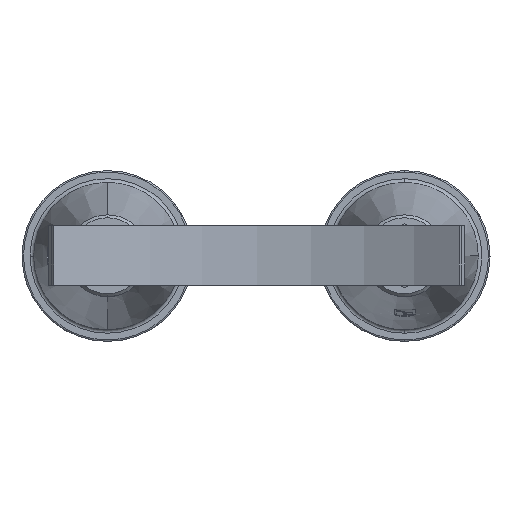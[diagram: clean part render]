
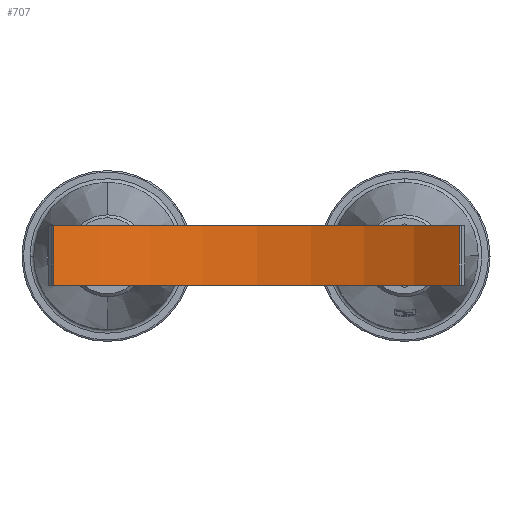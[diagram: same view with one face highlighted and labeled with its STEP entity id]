
A CAD part, top view. The second image highlights one B-rep face of the part: STEP entity #707.
In plain terms, the highlighted cylindrical face has radius 453 mm (diameter 906 mm), a partial arc.
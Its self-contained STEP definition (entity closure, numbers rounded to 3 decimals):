
#707=ADVANCED_FACE('',(#1395),#1396,.F.);
#1395=FACE_OUTER_BOUND('',#2122,.T.);
#1396=CYLINDRICAL_SURFACE('',#2123,453.0);
#2122=EDGE_LOOP('',(#3842,#3843,#3844,#3845));
#2123=AXIS2_PLACEMENT_3D('',#3846,#3847,#3848);
#3842=ORIENTED_EDGE('',*,*,#4741,.T.);
#3843=ORIENTED_EDGE('',*,*,#4731,.F.);
#3844=ORIENTED_EDGE('',*,*,#4742,.T.);
#3845=ORIENTED_EDGE('',*,*,#4738,.T.);
#3846=CARTESIAN_POINT('',(423.544,331.341,582.476));
#3847=DIRECTION('',(0.,-1.0,0.));
#3848=DIRECTION('',(1.0,0.,0.));
#4731=EDGE_CURVE('',#5745,#5740,#5747,.T.);
#4738=EDGE_CURVE('',#5757,#5755,#5758,.T.);
#4741=EDGE_CURVE('',#5755,#5740,#5761,.T.);
#4742=EDGE_CURVE('',#5745,#5757,#5762,.T.);
#5740=VERTEX_POINT('',#8166);
#5745=VERTEX_POINT('',#8173);
#5747=LINE('',#8176,#8177);
#5755=VERTEX_POINT('',#8186);
#5757=VERTEX_POINT('',#8189);
#5758=LINE('',#8190,#8191);
#5761=CIRCLE('',#8195,453.0);
#5762=CIRCLE('',#8196,453.0);
#8166=CARTESIAN_POINT('',(697.329,251.341,221.573));
#8173=CARTESIAN_POINT('',(697.329,331.341,221.573));
#8176=CARTESIAN_POINT('',(697.329,331.341,221.573));
#8177=VECTOR('',#9812,1.);
#8186=CARTESIAN_POINT('',(151.026,251.341,220.616));
#8189=CARTESIAN_POINT('',(151.026,331.341,220.616));
#8190=CARTESIAN_POINT('',(151.026,331.341,220.616));
#8191=VECTOR('',#9821,1.);
#8195=AXIS2_PLACEMENT_3D('',#9823,#9824,#9825);
#8196=AXIS2_PLACEMENT_3D('',#9826,#9827,#9828);
#9812=DIRECTION('',(0.,-1.0,0.));
#9821=DIRECTION('',(0.,-1.0,0.));
#9823=CARTESIAN_POINT('',(423.544,251.341,582.476));
#9824=DIRECTION('',(0.,-1.0,0.));
#9825=DIRECTION('',(1.0,0.,0.));
#9826=CARTESIAN_POINT('',(423.544,331.341,582.476));
#9827=DIRECTION('',(0.,1.0,0.));
#9828=DIRECTION('',(1.0,0.,0.));
